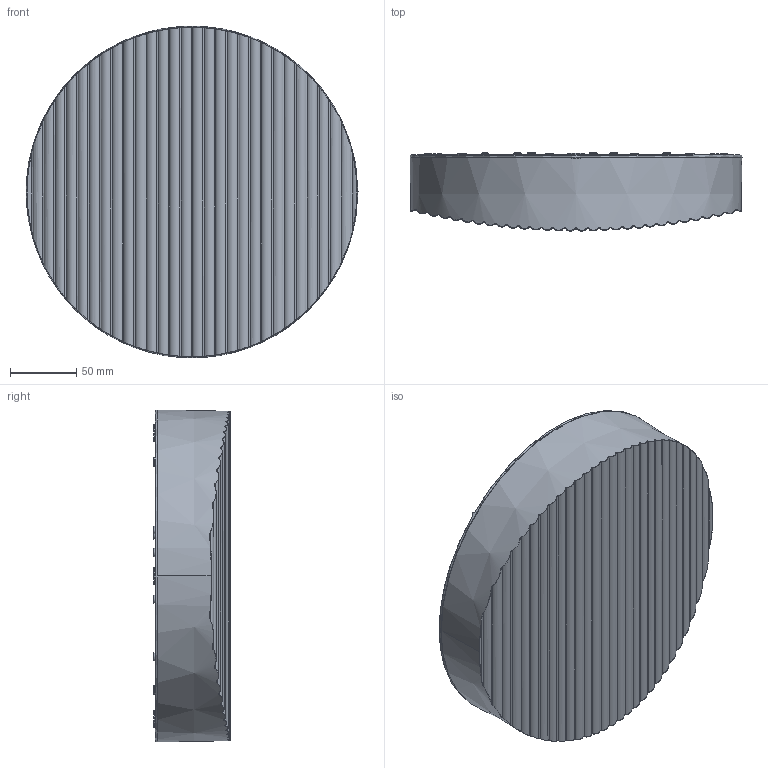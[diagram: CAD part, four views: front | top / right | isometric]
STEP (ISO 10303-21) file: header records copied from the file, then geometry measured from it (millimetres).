
FILE_DESCRIPTION((''),'2;1');
FILE_NAME('RAPPR_DI_DEFAULT_SW0001','2026-05-22T09:07:46',('Piccioli'),(''),'CREO PARAMETRIC BY PTC INC, 2025010','CREO PARAMETRIC BY PTC INC, 2025010','');
FILE_SCHEMA(('CONFIG_CONTROL_DESIGN'));
Length unit declared in the file: millimetre
Products named in the file (1): RAPPR_DI_DEFAULT_SW0001
Bounding box: 250 x 58.54 x 249.98 mm (x, y, z)
Surface area: 195039.3 mm2 (no closed solid volume)
Topology: 0 solids, 26 shells, 326 faces, 915 edges, 607 vertices
Faces by surface type: bspline 118, cylinder 71, torus 62, cone 41, plane 34
Entity records: 31174 total; most frequent: CARTESIAN_POINT 23981, ORIENTED_EDGE 1585, DIRECTION 1243, EDGE_CURVE 915, VERTEX_POINT 607, AXIS2_PLACEMENT_3D 548, B_SPLINE_CURVE_WITH_KNOTS 428, CIRCLE 340
